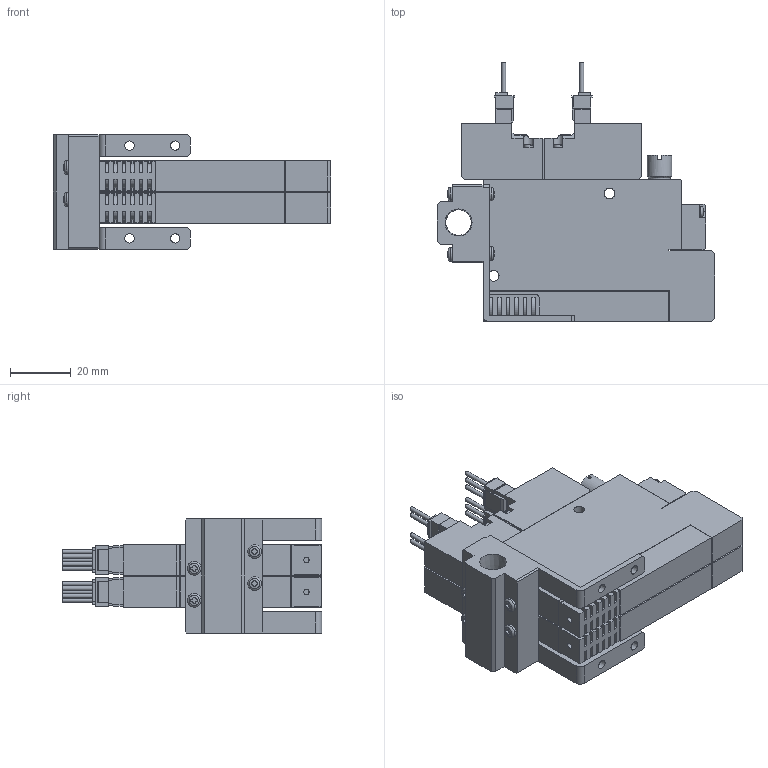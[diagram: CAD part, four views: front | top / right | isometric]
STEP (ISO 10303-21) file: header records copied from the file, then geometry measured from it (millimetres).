
FILE_DESCRIPTION(('STEP AP203'),'1');
FILE_NAME('5WS202_3D.stp','2024-09-04T09:28:07',(' '),(' '),'Spatial InterOp 3D',' ',' ');
FILE_SCHEMA(('CONFIG_CONTROL_DESIGN'));
Length unit declared in the file: millimetre
Products named in the file (5): BSC1M※※ZZ※5WS202; Solenoid valve W; Pressure Sensor ZZ; Unit-S; BaseMS20R
Assembly tree (7 placements, depth 2):
  BSC1M※※ZZ※5WS202
    Solenoid valve W  x2
    Pressure Sensor ZZ  x2
    Unit-S  x2
    BaseMS20R
Bounding box: 91 x 85.05 x 37.5 mm (x, y, z)
Volume: 95408.9 mm3; surface area: 40626.4 mm2
Topology: 7 solids, 7 shells, 969 faces, 2647 edges, 1754 vertices
Faces by surface type: plane 704, cylinder 229, sphere 12, torus 12, cone 12
Full cylindrical faces by diameter (mm): 1.4 x10, 1.8 x2, 2.5 x4, 3 x12, 3.5 x12, 4 x2, 4.134 x4, 4.5 x8, 5.5 x2, 7 x2, 7.7 x2, 8 x2, 8.422 x1
Entity records: 18048 total; most frequent: CARTESIAN_POINT 3799, ORIENTED_EDGE 2870, DIRECTION 2818, EDGE_CURVE 1435, LINE 1062, VECTOR 1062, VERTEX_POINT 987, AXIS2_PLACEMENT_3D 878
